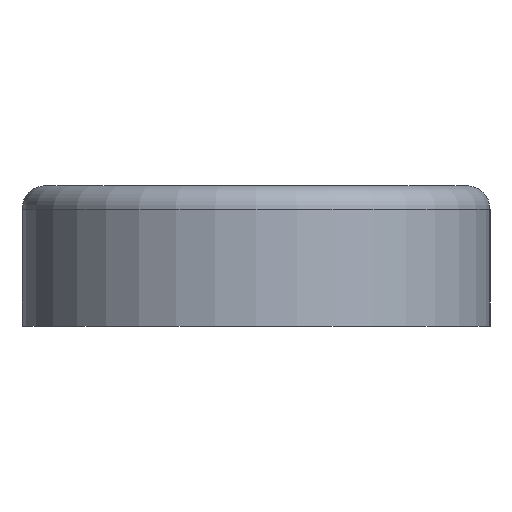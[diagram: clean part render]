
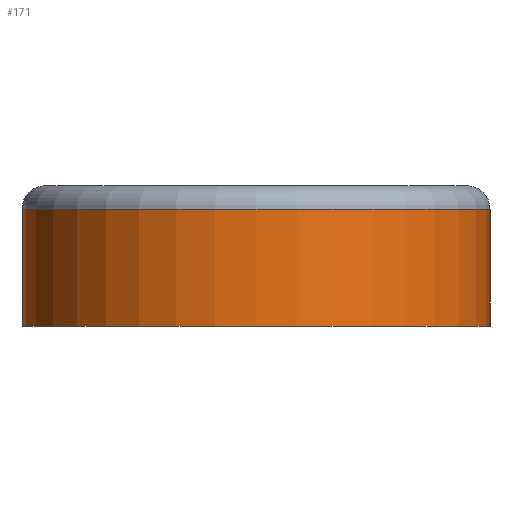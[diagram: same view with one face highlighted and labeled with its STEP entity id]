
A CAD part, left-side view. The second image highlights one B-rep face of the part: STEP entity #171.
In plain terms, the highlighted cylindrical face has radius 10 mm (diameter 20 mm), a partial arc.
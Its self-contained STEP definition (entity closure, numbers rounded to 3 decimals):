
#55 = EDGE_CURVE('',#56,#58,#60,.T.);
#56 = VERTEX_POINT('',#57);
#57 = CARTESIAN_POINT('',(10.,0.,0.));
#58 = VERTEX_POINT('',#59);
#59 = CARTESIAN_POINT('',(10.,0.,5.));
#60 = SURFACE_CURVE('',#61,(#65,#77),.PCURVE_S1.);
#61 = LINE('',#62,#63);
#62 = CARTESIAN_POINT('',(10.,0.,0.));
#63 = VECTOR('',#64,1.);
#64 = DIRECTION('',(0.,0.,1.));
#65 = PCURVE('',#66,#71);
#66 = PLANE('',#67);
#67 = AXIS2_PLACEMENT_3D('',#68,#69,#70);
#68 = CARTESIAN_POINT('',(10.,0.,0.));
#69 = DIRECTION('',(0.,1.,0.));
#70 = DIRECTION('',(1.,0.,0.));
#71 = DEFINITIONAL_REPRESENTATION('',(#72),#76);
#72 = LINE('',#73,#74);
#73 = CARTESIAN_POINT('',(0.,0.));
#74 = VECTOR('',#75,1.);
#75 = DIRECTION('',(0.,-1.));
#76 = ( GEOMETRIC_REPRESENTATION_CONTEXT(2) 
PARAMETRIC_REPRESENTATION_CONTEXT() REPRESENTATION_CONTEXT('2D SPACE',''
  ) );
#77 = PCURVE('',#78,#83);
#78 = CYLINDRICAL_SURFACE('',#79,10.);
#79 = AXIS2_PLACEMENT_3D('',#80,#81,#82);
#80 = CARTESIAN_POINT('',(10.,10.,0.));
#81 = DIRECTION('',(0.,0.,-1.));
#82 = DIRECTION('',(0.,1.,0.));
#83 = DEFINITIONAL_REPRESENTATION('',(#84),#88);
#84 = LINE('',#85,#86);
#85 = CARTESIAN_POINT('',(-3.142,0.));
#86 = VECTOR('',#87,1.);
#87 = DIRECTION('',(-0.,-1.));
#88 = ( GEOMETRIC_REPRESENTATION_CONTEXT(2) 
PARAMETRIC_REPRESENTATION_CONTEXT() REPRESENTATION_CONTEXT('2D SPACE',''
  ) );
#160 = PLANE('',#161);
#161 = AXIS2_PLACEMENT_3D('',#162,#163,#164);
#162 = CARTESIAN_POINT('',(20.,10.,0.));
#163 = DIRECTION('',(0.,0.,1.));
#164 = DIRECTION('',(1.,0.,0.));
#171 = ADVANCED_FACE('',(#172),#78,.T.);
#172 = FACE_BOUND('',#173,.F.);
#173 = EDGE_LOOP('',(#174,#204,#231,#232));
#174 = ORIENTED_EDGE('',*,*,#175,.T.);
#175 = EDGE_CURVE('',#176,#178,#180,.T.);
#176 = VERTEX_POINT('',#177);
#177 = CARTESIAN_POINT('',(10.,20.,0.));
#178 = VERTEX_POINT('',#179);
#179 = CARTESIAN_POINT('',(10.,20.,5.));
#180 = SURFACE_CURVE('',#181,(#185,#192),.PCURVE_S1.);
#181 = LINE('',#182,#183);
#182 = CARTESIAN_POINT('',(10.,20.,0.));
#183 = VECTOR('',#184,1.);
#184 = DIRECTION('',(0.,0.,1.));
#185 = PCURVE('',#78,#186);
#186 = DEFINITIONAL_REPRESENTATION('',(#187),#191);
#187 = LINE('',#188,#189);
#188 = CARTESIAN_POINT('',(-0.,0.));
#189 = VECTOR('',#190,1.);
#190 = DIRECTION('',(-0.,-1.));
#191 = ( GEOMETRIC_REPRESENTATION_CONTEXT(2) 
PARAMETRIC_REPRESENTATION_CONTEXT() REPRESENTATION_CONTEXT('2D SPACE',''
  ) );
#192 = PCURVE('',#193,#198);
#193 = PLANE('',#194);
#194 = AXIS2_PLACEMENT_3D('',#195,#196,#197);
#195 = CARTESIAN_POINT('',(30.,20.,0.));
#196 = DIRECTION('',(0.,-1.,0.));
#197 = DIRECTION('',(-1.,0.,0.));
#198 = DEFINITIONAL_REPRESENTATION('',(#199),#203);
#199 = LINE('',#200,#201);
#200 = CARTESIAN_POINT('',(20.,0.));
#201 = VECTOR('',#202,1.);
#202 = DIRECTION('',(0.,-1.));
#203 = ( GEOMETRIC_REPRESENTATION_CONTEXT(2) 
PARAMETRIC_REPRESENTATION_CONTEXT() REPRESENTATION_CONTEXT('2D SPACE',''
  ) );
#204 = ORIENTED_EDGE('',*,*,#205,.T.);
#205 = EDGE_CURVE('',#178,#58,#206,.T.);
#206 = SURFACE_CURVE('',#207,(#212,#219),.PCURVE_S1.);
#207 = CIRCLE('',#208,10.);
#208 = AXIS2_PLACEMENT_3D('',#209,#210,#211);
#209 = CARTESIAN_POINT('',(10.,10.,5.));
#210 = DIRECTION('',(0.,-0.,1.));
#211 = DIRECTION('',(0.,1.,0.));
#212 = PCURVE('',#78,#213);
#213 = DEFINITIONAL_REPRESENTATION('',(#214),#218);
#214 = LINE('',#215,#216);
#215 = CARTESIAN_POINT('',(-0.,-5.));
#216 = VECTOR('',#217,1.);
#217 = DIRECTION('',(-1.,0.));
#218 = ( GEOMETRIC_REPRESENTATION_CONTEXT(2) 
PARAMETRIC_REPRESENTATION_CONTEXT() REPRESENTATION_CONTEXT('2D SPACE',''
  ) );
#219 = PCURVE('',#220,#225);
#220 = TOROIDAL_SURFACE('',#221,9.,1.);
#221 = AXIS2_PLACEMENT_3D('',#222,#223,#224);
#222 = CARTESIAN_POINT('',(10.,10.,5.));
#223 = DIRECTION('',(0.,0.,1.));
#224 = DIRECTION('',(0.,1.,0.));
#225 = DEFINITIONAL_REPRESENTATION('',(#226),#230);
#226 = LINE('',#227,#228);
#227 = CARTESIAN_POINT('',(0.,0.));
#228 = VECTOR('',#229,1.);
#229 = DIRECTION('',(1.,0.));
#230 = ( GEOMETRIC_REPRESENTATION_CONTEXT(2) 
PARAMETRIC_REPRESENTATION_CONTEXT() REPRESENTATION_CONTEXT('2D SPACE',''
  ) );
#231 = ORIENTED_EDGE('',*,*,#55,.F.);
#232 = ORIENTED_EDGE('',*,*,#233,.F.);
#233 = EDGE_CURVE('',#176,#56,#234,.T.);
#234 = SURFACE_CURVE('',#235,(#240,#247),.PCURVE_S1.);
#235 = CIRCLE('',#236,10.);
#236 = AXIS2_PLACEMENT_3D('',#237,#238,#239);
#237 = CARTESIAN_POINT('',(10.,10.,0.));
#238 = DIRECTION('',(0.,-0.,1.));
#239 = DIRECTION('',(0.,1.,0.));
#240 = PCURVE('',#78,#241);
#241 = DEFINITIONAL_REPRESENTATION('',(#242),#246);
#242 = LINE('',#243,#244);
#243 = CARTESIAN_POINT('',(-0.,0.));
#244 = VECTOR('',#245,1.);
#245 = DIRECTION('',(-1.,0.));
#246 = ( GEOMETRIC_REPRESENTATION_CONTEXT(2) 
PARAMETRIC_REPRESENTATION_CONTEXT() REPRESENTATION_CONTEXT('2D SPACE',''
  ) );
#247 = PCURVE('',#160,#248);
#248 = DEFINITIONAL_REPRESENTATION('',(#249),#253);
#249 = CIRCLE('',#250,10.);
#250 = AXIS2_PLACEMENT_2D('',#251,#252);
#251 = CARTESIAN_POINT('',(-10.,0.));
#252 = DIRECTION('',(0.,1.));
#253 = ( GEOMETRIC_REPRESENTATION_CONTEXT(2) 
PARAMETRIC_REPRESENTATION_CONTEXT() REPRESENTATION_CONTEXT('2D SPACE',''
  ) );
